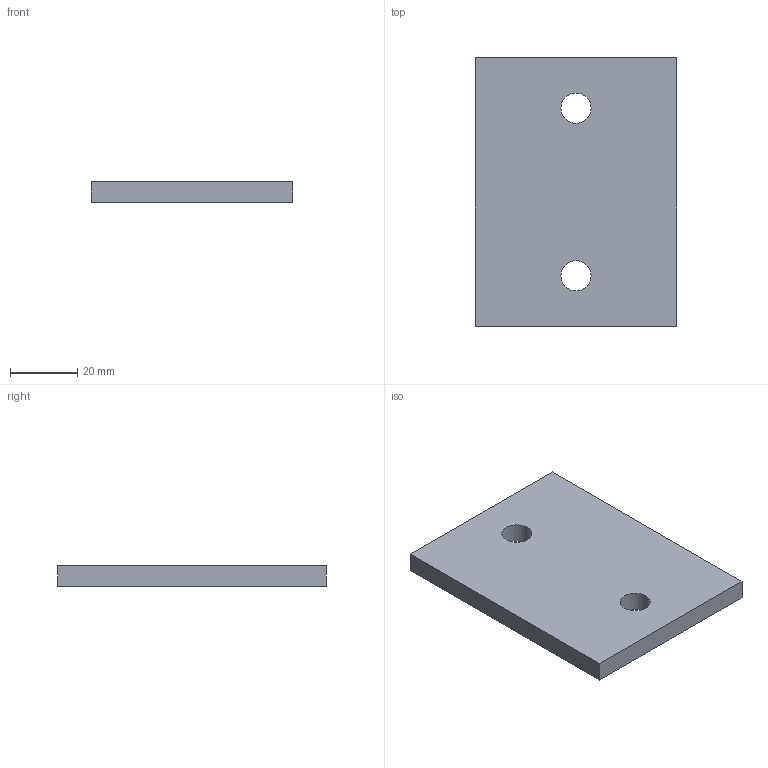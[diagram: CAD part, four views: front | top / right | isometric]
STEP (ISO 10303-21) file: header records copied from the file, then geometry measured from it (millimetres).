
FILE_DESCRIPTION(('Open CASCADE Model'),'2;1');
FILE_NAME('Open CASCADE Shape Model','2026-10-15T15:10:05',('Author'),( 'Open CASCADE'),'Open CASCADE STEP processor 8.0','Open CASCADE 8.0' ,'Unknown');
FILE_SCHEMA(('AUTOMOTIVE_DESIGN { 1 0 10303 214 1 1 1 1 }'));
Length unit declared in the file: millimetre
Products named in the file (1): MS05_SOPORTE_60x80x6_P05 119
Bounding box: 60 x 80 x 6 mm (x, y, z)
Volume: 28036.6 mm3; surface area: 11364.8 mm2
Topology: 1 solids, 1 shells, 8 faces, 18 edges, 12 vertices
Faces by surface type: plane 6, cylinder 2
Full cylindrical faces by diameter (mm): 9 x2
Entity records: 478 total; most frequent: DIRECTION 76, CARTESIAN_POINT 75, LINE 46, VECTOR 46, ORIENTED_EDGE 36, PCURVE 36, DEFINITIONAL_REPRESENTATION 36, EDGE_CURVE 18
